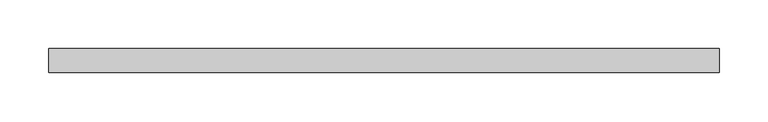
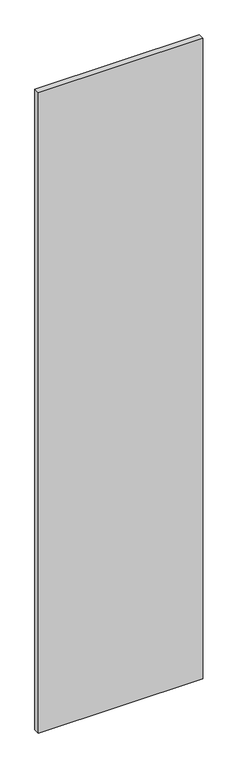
"""IFC4 building model written with IfcOpenShell, lengths in millimetres: plate geometry, 系统嵌板 : 玻璃."""

from ifc_helpers import new_model, si_unit, origin, origin_with_axes, place, context, project, spatial, polyline, outline, extrude, source, transform, mapped, element, save


def plate_9922c087(model_context):
    return source(origin(), model_context, "Body", "SweptSolid", [
        extrude(outline(polyline([(345.0000001, -12.5), (-345.0000001, -12.5), (-345.0000001, 12.5), (345.0000001, 12.5), (345.0000001, -12.5)])), origin_with_axes(), (0.0, 0.0, 1.0), 2840.0),
    ])


if __name__ == "__main__":
    model = new_model("IFC4")
    model_context = context("Model", 3, world=origin())
    ifc_project = project(units=[si_unit("LENGTHUNIT", "METRE", prefix="MILLI")], contexts=[model_context])
    site = spatial("IfcSite", under=ifc_project)
    building = spatial("IfcBuilding", under=site)
    placement = place(None, origin())
    plate_shape = plate_9922c087(model_context)
    element("IfcPlate", 1, ObjectType="系统嵌板 : 玻璃", at=placement, inside=building, context=model_context, shape_type="MappedRepresentation", body=[
        mapped(plate_shape, transform((0.0, 0.0, 0.0), x_axis=(1.0, 0.0, 0.0), y_axis=(0.0, 1.0, 0.0), z_axis=(0.0, 0.0, 1.0))),
    ])
    save(model, "model.ifc")
